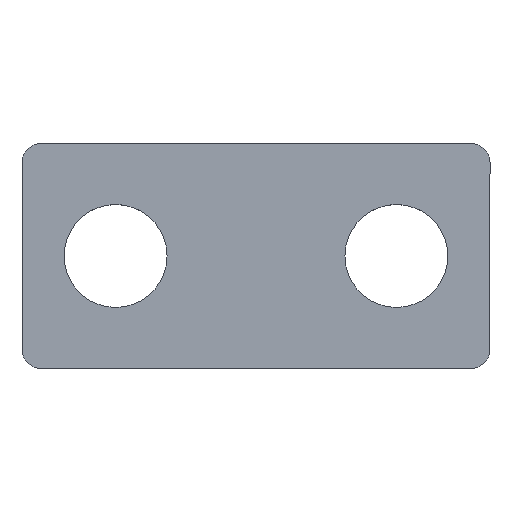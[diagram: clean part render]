
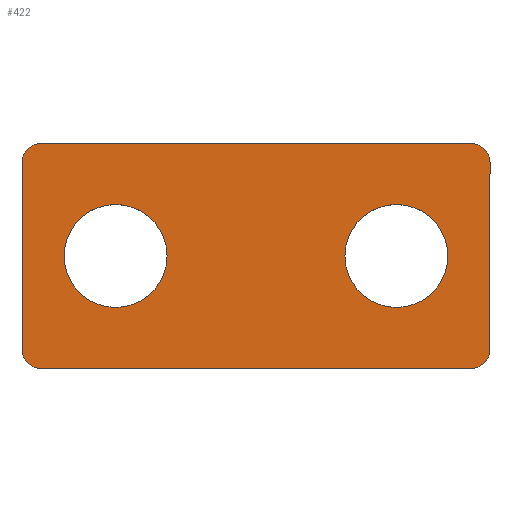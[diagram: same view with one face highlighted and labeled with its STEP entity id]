
A CAD part, top view. The second image highlights one B-rep face of the part: STEP entity #422.
In plain terms, the highlighted planar face has unit normal (0, 0, 1).
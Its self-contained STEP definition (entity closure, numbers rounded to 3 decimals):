
#6 = DIRECTION ( 'NONE',  ( 0., 1., 0. ) ) ;
#8 = DIRECTION ( 'NONE',  ( 1., 0., 0. ) ) ;
#11 = DIRECTION ( 'NONE',  ( 1., 0., 0. ) ) ;
#15 = CARTESIAN_POINT ( 'NONE',  ( -7.5, 0., 1.5 ) ) ;
#17 = EDGE_LOOP ( 'NONE', ( #362, #51 ) ) ;
#30 = ORIENTED_EDGE ( 'NONE', *, *, #524, .T. ) ;
#34 = CARTESIAN_POINT ( 'NONE',  ( -12.5, -5., 1.5 ) ) ;
#41 = EDGE_CURVE ( 'NONE', #438, #63, #94, .T. ) ;
#44 = CIRCLE ( 'NONE', #475, 2.75 ) ;
#51 = ORIENTED_EDGE ( 'NONE', *, *, #122, .F. ) ;
#54 = CARTESIAN_POINT ( 'NONE',  ( 12.5, 5., 1.5 ) ) ;
#63 = VERTEX_POINT ( 'NONE', #34 ) ;
#67 = DIRECTION ( 'NONE',  ( 0., 0., 1. ) ) ;
#68 = CARTESIAN_POINT ( 'NONE',  ( 11.5, -5., 1.5 ) ) ;
#71 = EDGE_CURVE ( 'NONE', #175, #324, #235, .T. ) ;
#73 = CIRCLE ( 'NONE', #465, 2.75 ) ;
#74 = CIRCLE ( 'NONE', #116, 1. ) ;
#78 = VECTOR ( 'NONE', #444, 1000. ) ;
#82 = CARTESIAN_POINT ( 'NONE',  ( 0., 0., 1.5 ) ) ;
#83 = VERTEX_POINT ( 'NONE', #263 ) ;
#85 = DIRECTION ( 'NONE',  ( 0., 0., 1. ) ) ;
#86 = EDGE_CURVE ( 'NONE', #333, #341, #73, .T. ) ;
#93 = CARTESIAN_POINT ( 'NONE',  ( -11.5, 6., 1.5 ) ) ;
#94 = LINE ( 'NONE', #168, #78 ) ;
#96 = ORIENTED_EDGE ( 'NONE', *, *, #360, .T. ) ;
#97 = CARTESIAN_POINT ( 'NONE',  ( -4.75, 0., 1.5 ) ) ;
#107 = CIRCLE ( 'NONE', #516, 2.75 ) ;
#116 = AXIS2_PLACEMENT_3D ( 'NONE', #68, #196, #224 ) ;
#122 = EDGE_CURVE ( 'NONE', #139, #494, #515, .T. ) ;
#124 = PLANE ( 'NONE',  #204 ) ;
#125 = DIRECTION ( 'NONE',  ( 0., 0., 1. ) ) ;
#129 = DIRECTION ( 'NONE',  ( 1., 0., 0. ) ) ;
#131 = VERTEX_POINT ( 'NONE', #93 ) ;
#139 = VERTEX_POINT ( 'NONE', #97 ) ;
#140 = LINE ( 'NONE', #342, #403 ) ;
#141 = CARTESIAN_POINT ( 'NONE',  ( -11.5, 5., 1.5 ) ) ;
#163 = CARTESIAN_POINT ( 'NONE',  ( -11.5, -5., 1.5 ) ) ;
#168 = CARTESIAN_POINT ( 'NONE',  ( -12.5, -6., 1.5 ) ) ;
#172 = DIRECTION ( 'NONE',  ( 0., 0., 1. ) ) ;
#174 = VERTEX_POINT ( 'NONE', #305 ) ;
#175 = VERTEX_POINT ( 'NONE', #54 ) ;
#176 = AXIS2_PLACEMENT_3D ( 'NONE', #186, #223, #11 ) ;
#185 = EDGE_CURVE ( 'NONE', #324, #131, #330, .T. ) ;
#186 = CARTESIAN_POINT ( 'NONE',  ( 11.5, 5., 1.5 ) ) ;
#188 = EDGE_CURVE ( 'NONE', #83, #174, #278, .T. ) ;
#196 = DIRECTION ( 'NONE',  ( 0., 0., 1. ) ) ;
#197 = EDGE_CURVE ( 'NONE', #341, #333, #44, .T. ) ;
#204 = AXIS2_PLACEMENT_3D ( 'NONE', #82, #315, #270 ) ;
#219 = AXIS2_PLACEMENT_3D ( 'NONE', #163, #85, #8 ) ;
#221 = ORIENTED_EDGE ( 'NONE', *, *, #188, .T. ) ;
#223 = DIRECTION ( 'NONE',  ( 0., 0., 1. ) ) ;
#224 = DIRECTION ( 'NONE',  ( 1., 0., 0. ) ) ;
#235 = CIRCLE ( 'NONE', #176, 1. ) ;
#240 = FACE_BOUND ( 'NONE', #17, .T. ) ;
#245 = ORIENTED_EDGE ( 'NONE', *, *, #71, .T. ) ;
#252 = EDGE_LOOP ( 'NONE', ( #415, #447 ) ) ;
#260 = ORIENTED_EDGE ( 'NONE', *, *, #320, .T. ) ;
#262 = CIRCLE ( 'NONE', #316, 1. ) ;
#263 = CARTESIAN_POINT ( 'NONE',  ( -11.5, -6., 1.5 ) ) ;
#270 = DIRECTION ( 'NONE',  ( 1., 0., 0. ) ) ;
#273 = CARTESIAN_POINT ( 'NONE',  ( 12.5, 6., 1.5 ) ) ;
#278 = LINE ( 'NONE', #448, #384 ) ;
#292 = DIRECTION ( 'NONE',  ( 1., 0., 0. ) ) ;
#299 = CARTESIAN_POINT ( 'NONE',  ( -12.5, 5., 1.5 ) ) ;
#305 = CARTESIAN_POINT ( 'NONE',  ( 11.5, -6., 1.5 ) ) ;
#314 = CARTESIAN_POINT ( 'NONE',  ( -7.5, 0., 1.5 ) ) ;
#315 = DIRECTION ( 'NONE',  ( 0., 0., 1. ) ) ;
#316 = AXIS2_PLACEMENT_3D ( 'NONE', #141, #172, #292 ) ;
#320 = EDGE_CURVE ( 'NONE', #367, #175, #140, .T. ) ;
#321 = CARTESIAN_POINT ( 'NONE',  ( 10.25, 0., 1.5 ) ) ;
#322 = CARTESIAN_POINT ( 'NONE',  ( 12.5, -5., 1.5 ) ) ;
#324 = VERTEX_POINT ( 'NONE', #371 ) ;
#330 = LINE ( 'NONE', #273, #331 ) ;
#331 = VECTOR ( 'NONE', #437, 1000. ) ;
#333 = VERTEX_POINT ( 'NONE', #321 ) ;
#341 = VERTEX_POINT ( 'NONE', #400 ) ;
#342 = CARTESIAN_POINT ( 'NONE',  ( 12.5, -6., 1.5 ) ) ;
#348 = EDGE_CURVE ( 'NONE', #63, #83, #483, .T. ) ;
#360 = EDGE_CURVE ( 'NONE', #131, #438, #262, .T. ) ;
#362 = ORIENTED_EDGE ( 'NONE', *, *, #383, .F. ) ;
#367 = VERTEX_POINT ( 'NONE', #322 ) ;
#371 = CARTESIAN_POINT ( 'NONE',  ( 11.5, 6., 1.5 ) ) ;
#375 = CARTESIAN_POINT ( 'NONE',  ( 7.5, 0., 1.5 ) ) ;
#383 = EDGE_CURVE ( 'NONE', #494, #139, #107, .T. ) ;
#384 = VECTOR ( 'NONE', #442, 1000. ) ;
#400 = CARTESIAN_POINT ( 'NONE',  ( 4.75, 0., 1.5 ) ) ;
#403 = VECTOR ( 'NONE', #6, 1000. ) ;
#406 = EDGE_LOOP ( 'NONE', ( #221, #30, #260, #245, #459, #96, #499, #418 ) ) ;
#415 = ORIENTED_EDGE ( 'NONE', *, *, #197, .F. ) ;
#418 = ORIENTED_EDGE ( 'NONE', *, *, #348, .T. ) ;
#420 = CARTESIAN_POINT ( 'NONE',  ( 7.5, 0., 1.5 ) ) ;
#422 = ADVANCED_FACE ( 'NONE', ( #240, #501, #434 ), #124, .T. ) ;
#431 = AXIS2_PLACEMENT_3D ( 'NONE', #314, #480, #129 ) ;
#434 = FACE_BOUND ( 'NONE', #252, .T. ) ;
#437 = DIRECTION ( 'NONE',  ( -1., 0., 0. ) ) ;
#438 = VERTEX_POINT ( 'NONE', #299 ) ;
#442 = DIRECTION ( 'NONE',  ( 1., 0., 0. ) ) ;
#444 = DIRECTION ( 'NONE',  ( 0., -1., 0. ) ) ;
#447 = ORIENTED_EDGE ( 'NONE', *, *, #86, .F. ) ;
#448 = CARTESIAN_POINT ( 'NONE',  ( 12.5, -6., 1.5 ) ) ;
#459 = ORIENTED_EDGE ( 'NONE', *, *, #185, .T. ) ;
#460 = CARTESIAN_POINT ( 'NONE',  ( -10.25, 0., 1.5 ) ) ;
#461 = DIRECTION ( 'NONE',  ( 1., 0., 0. ) ) ;
#465 = AXIS2_PLACEMENT_3D ( 'NONE', #420, #67, #461 ) ;
#475 = AXIS2_PLACEMENT_3D ( 'NONE', #375, #125, #487 ) ;
#480 = DIRECTION ( 'NONE',  ( 0., 0., 1. ) ) ;
#483 = CIRCLE ( 'NONE', #219, 1. ) ;
#486 = DIRECTION ( 'NONE',  ( 0., 0., 1. ) ) ;
#487 = DIRECTION ( 'NONE',  ( 1., 0., 0. ) ) ;
#494 = VERTEX_POINT ( 'NONE', #460 ) ;
#496 = DIRECTION ( 'NONE',  ( 1., 0., 0. ) ) ;
#499 = ORIENTED_EDGE ( 'NONE', *, *, #41, .T. ) ;
#501 = FACE_OUTER_BOUND ( 'NONE', #406, .T. ) ;
#515 = CIRCLE ( 'NONE', #431, 2.75 ) ;
#516 = AXIS2_PLACEMENT_3D ( 'NONE', #15, #486, #496 ) ;
#524 = EDGE_CURVE ( 'NONE', #174, #367, #74, .T. ) ;
